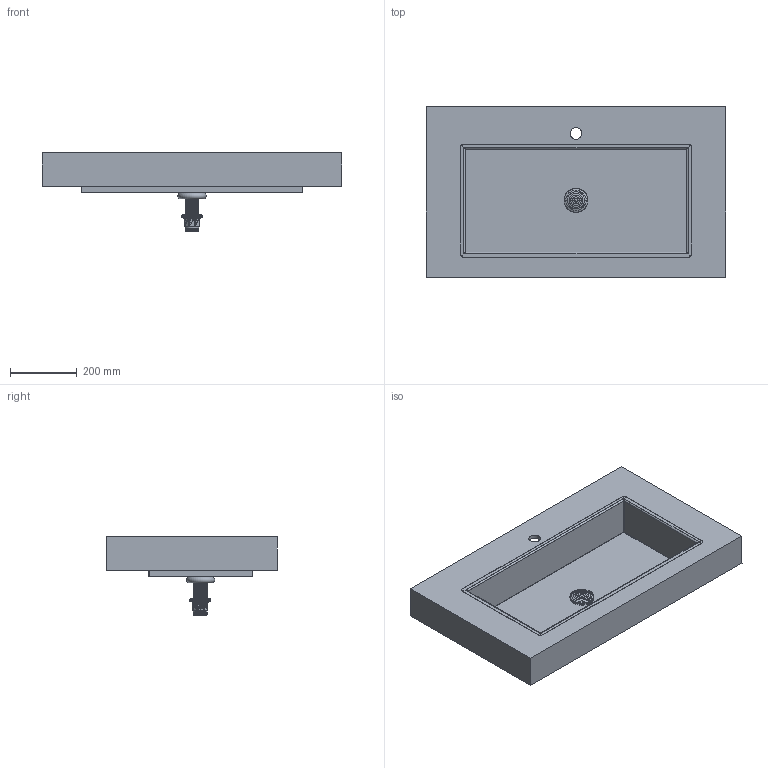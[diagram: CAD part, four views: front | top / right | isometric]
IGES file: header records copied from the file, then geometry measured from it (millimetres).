
Start section: Data from Parasolid IGES Translator 19.0.9, Copyright(c) 2006 Siemens PL M Software. All Rights Reserved.
Global section: file name: noorth-top-H 10 D 51,3 W 90_6557.igs; native system: By Siemens PLM Incorporated; preprocessor: XPlus GENERIC/IGES 19.0.9; author: Noname; organization: Noname; date: 20200603.105901; units: metre
Bounding box: 900 x 512 x 235.2 mm (x, y, z)
Volume: 5120706.5 mm3; surface area: 1846963.8 mm2
Topology: 2 solids, 2 shells, 11736 faces, 35128 edges, 35014 vertices
Faces by surface type: extrusion 11618, plane 64, cylinder 28, bspline 20, torus 4, cone 2
Full cylindrical faces by diameter (mm): 34.9 x1, 42 x1, 46 x1, 47.6 x1
